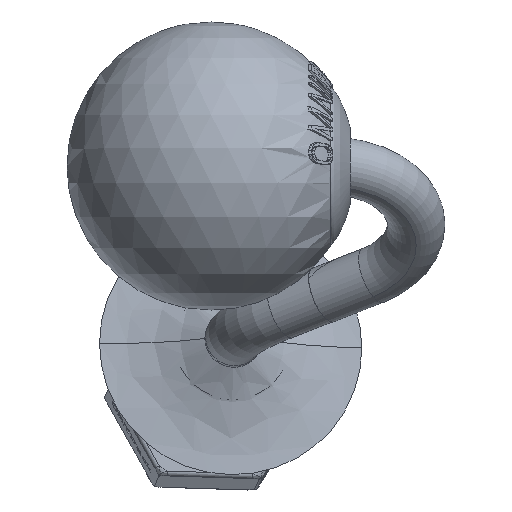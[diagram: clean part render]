
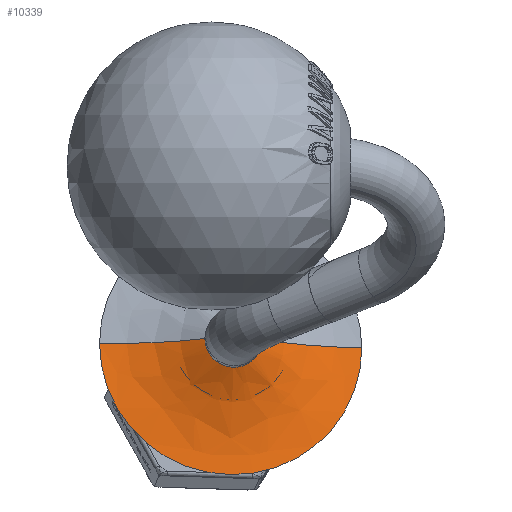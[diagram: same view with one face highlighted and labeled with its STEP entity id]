
A CAD part, top view. The second image highlights one B-rep face of the part: STEP entity #10339.
In plain terms, the highlighted free-form (B-spline) face has degree [3, 3] with [7, 4] control points.
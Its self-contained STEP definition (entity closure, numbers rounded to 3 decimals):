
#10188=CARTESIAN_POINT('',(0.,0.,5.));
#10189=DIRECTION('',(0.,0.,-1.));
#10190=DIRECTION('',(0.,1.,0.));
#10191=AXIS2_PLACEMENT_3D('',#10188,#10189,#10190);
#10197=CARTESIAN_POINT('',(0.,0.,1.));
#10198=DIRECTION('',(0.,0.,1.));
#10199=DIRECTION('',(0.,-1.,0.));
#10200=AXIS2_PLACEMENT_3D('',#10197,#10198,#10199);
#10202=CARTESIAN_POINT('',(0.,-16.,22.531));
#10203=DIRECTION('',(1.,0.,0.));
#10204=DIRECTION('',(0.,0.,-1.));
#10205=AXIS2_PLACEMENT_3D('',#10202,#10203,#10204);
#10207=CARTESIAN_POINT('',(0.,16.,22.531));
#10208=DIRECTION('',(-1.,0.,0.));
#10209=DIRECTION('',(0.,0.,-1.));
#10210=AXIS2_PLACEMENT_3D('',#10207,#10208,#10209);
#10255=CARTESIAN_POINT('',(0.,3.5,5.));
#10257=VERTEX_POINT('',#10255);
#10259=CARTESIAN_POINT('',(0.,-3.5,5.));
#10261=VERTEX_POINT('',#10259);
#10263=CARTESIAN_POINT('',(0.,-16.,
1.));
#10264=CARTESIAN_POINT('',(0.,16.,
1.));
#10265=VERTEX_POINT('',#10263);
#10266=VERTEX_POINT('',#10264);
#10301=CARTESIAN_POINT('',(-0.206,-3.277,
5.156));
#10302=CARTESIAN_POINT('',(-0.445,-7.067,
2.377));
#10303=CARTESIAN_POINT('',(-0.726,-11.539,
0.943));
#10304=CARTESIAN_POINT('',(-1.021,-16.235,
1.002));
#10305=CARTESIAN_POINT('',(1.811,-3.404,
5.156));
#10306=CARTESIAN_POINT('',(3.904,-7.34,
2.377));
#10307=CARTESIAN_POINT('',(6.375,-11.986,
0.943));
#10308=CARTESIAN_POINT('',(8.969,-16.863,
1.002));
#10309=CARTESIAN_POINT('',(3.284,-2.021,
5.156));
#10310=CARTESIAN_POINT('',(7.081,-4.357,
2.377));
#10311=CARTESIAN_POINT('',(11.562,-7.115,
0.943));
#10312=CARTESIAN_POINT('',(16.267,-10.011,
1.002));
#10313=CARTESIAN_POINT('',(3.284,0.,5.156));
#10314=CARTESIAN_POINT('',(7.081,0.,2.377));
#10315=CARTESIAN_POINT('',(11.562,0.,0.943));
#10316=CARTESIAN_POINT('',(16.267,0.,1.002));
#10317=CARTESIAN_POINT('',(3.284,2.021,5.156));
#10318=CARTESIAN_POINT('',(7.081,4.357,2.377));
#10319=CARTESIAN_POINT('',(11.562,7.115,
0.943));
#10320=CARTESIAN_POINT('',(16.267,10.011,1.002));
#10321=CARTESIAN_POINT('',(1.811,3.404,5.156));
#10322=CARTESIAN_POINT('',(3.904,7.34,2.377));
#10323=CARTESIAN_POINT('',(6.375,11.986,
0.943));
#10324=CARTESIAN_POINT('',(8.969,16.863,1.002));
#10325=CARTESIAN_POINT('',(-0.206,3.277,
5.156));
#10326=CARTESIAN_POINT('',(-0.445,7.067,
2.377));
#10327=CARTESIAN_POINT('',(-0.726,11.539,
0.943));
#10328=CARTESIAN_POINT('',(-1.021,16.235,
1.002));
#10329=(BOUNDED_SURFACE()B_SPLINE_SURFACE(3,3,((#10301,#10302,#10303,#10304),(
#10305,#10306,#10307,#10308),(#10309,#10310,#10311,#10312),(#10313,#10314,
#10315,#10316),(#10317,#10318,#10319,#10320),(#10321,#10322,#10323,#10324),(
#10325,#10326,#10327,#10328)),.UNSPECIFIED.,.F.,.F.,.F.)B_SPLINE_SURFACE_WITH_KNOTS((4,3,4),(4,4),(0.,1.,2.),(0.,1.),.UNSPECIFIED.)GEOMETRIC_REPRESENTATION_ITEM()RATIONAL_B_SPLINE_SURFACE(((1.219,1.177,
1.177,1.219),(0.962,0.929,
0.929,0.962),(0.962,0.929,
0.929,0.962),(1.219,1.177,
1.177,1.219),(0.962,0.929,
0.929,0.962),(0.962,0.929,
0.929,0.962),(1.219,1.177,
1.177,1.219)))REPRESENTATION_ITEM('')SURFACE());
#10331=ORIENTED_EDGE('',*,*,#10330,.F.);
#10333=ORIENTED_EDGE('',*,*,#10332,.T.);
#10334=ORIENTED_EDGE('',*,*,#10293,.F.);
#10336=ORIENTED_EDGE('',*,*,#10335,.F.);
#10337=EDGE_LOOP('',(#10331,#10333,#10334,#10336));
#10338=FACE_OUTER_BOUND('',#10337,.F.);
#10192=CIRCLE('',#10191,3.5);
#10201=CIRCLE('',#10200,16.);
#10206=CIRCLE('',#10205,21.531);
#10211=CIRCLE('',#10210,21.531);
#10293=EDGE_CURVE('',#10257,#10261,#10192,.T.);
#10330=EDGE_CURVE('',#10265,#10266,#10201,.T.);
#10332=EDGE_CURVE('',#10265,#10261,#10206,.T.);
#10335=EDGE_CURVE('',#10266,#10257,#10211,.T.);
#10339=ADVANCED_FACE('',(#10338),#10329,.F.);
